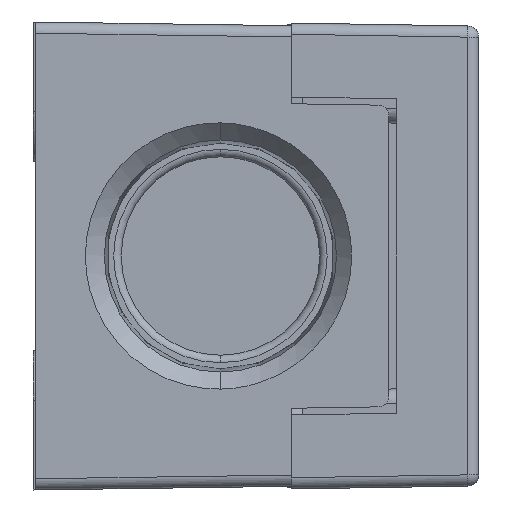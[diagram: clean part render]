
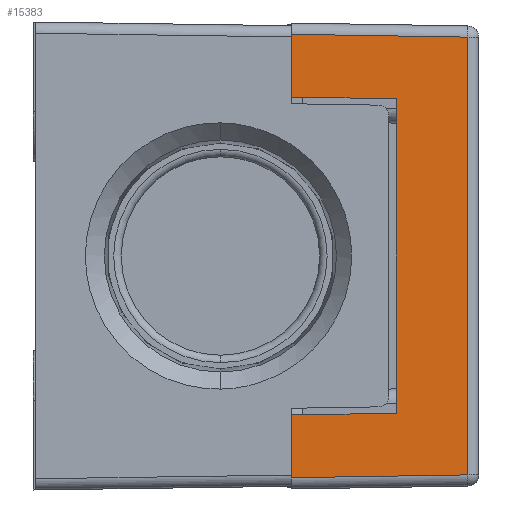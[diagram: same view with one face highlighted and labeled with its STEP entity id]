
A CAD part, front view. The second image highlights one B-rep face of the part: STEP entity #15383.
In plain terms, the highlighted planar face has unit normal (0.016, -1, 0).
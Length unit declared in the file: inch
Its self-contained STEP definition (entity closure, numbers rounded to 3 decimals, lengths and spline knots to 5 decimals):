
#536=DIRECTION('',(0.,0.,1.));
#537=VECTOR('',#536,0.2515);
#538=CARTESIAN_POINT('',(0.19,-3.68572,-0.88823));
#539=LINE('',#538,#537);
#2592=DIRECTION('',(0.,0.,1.));
#2593=VECTOR('',#2592,1.75386);
#2594=CARTESIAN_POINT('',(0.89572,-3.67442,
-0.87693));
#2595=LINE('',#2594,#2593);
#2601=DIRECTION('',(1.,0.016,0.016));
#2602=VECTOR('',#2601,0.7059);
#2603=CARTESIAN_POINT('',(0.19,-3.68572,-0.88823));
#2604=LINE('',#2603,#2602);
#2624=DIRECTION('',(0.,0.,-1.));
#2625=VECTOR('',#2624,1.26);
#2626=CARTESIAN_POINT('',(0.61,-3.679,0.63));
#2627=LINE('',#2626,#2625);
#2637=DIRECTION('',(-1.,-0.016,0.016));
#2638=VECTOR('',#2637,0.7059);
#2639=CARTESIAN_POINT('',(0.89572,-3.67442,
0.87693));
#2640=LINE('',#2639,#2638);
#2663=DIRECTION('',(0.,0.,1.));
#2664=VECTOR('',#2663,0.2515);
#2665=CARTESIAN_POINT('',(0.19,-3.68572,0.63672));
#2666=LINE('',#2665,#2664);
#2697=DIRECTION('',(1.,0.016,-0.016));
#2698=VECTOR('',#2697,0.42011);
#2699=CARTESIAN_POINT('',(0.19,-3.68572,0.63672));
#2700=LINE('',#2699,#2698);
#3230=DIRECTION('',(-1.,-0.016,-0.016));
#3231=VECTOR('',#3230,0.42011);
#3232=CARTESIAN_POINT('',(0.61,-3.679,-0.63));
#3233=LINE('',#3232,#3231);
#11427=CARTESIAN_POINT('',(0.61,-3.679,0.63));
#11428=CARTESIAN_POINT('',(0.61,-3.679,-0.63));
#11429=VERTEX_POINT('',#11427);
#11430=VERTEX_POINT('',#11428);
#11433=CARTESIAN_POINT('',(0.19,-3.68572,0.63672));
#11434=VERTEX_POINT('',#11433);
#11435=CARTESIAN_POINT('',(0.19,-3.68572,-0.63672));
#11436=VERTEX_POINT('',#11435);
#11494=CARTESIAN_POINT('',(0.89572,-3.67442,
0.87693));
#11495=CARTESIAN_POINT('',(0.19,-3.68572,0.88823));
#11496=VERTEX_POINT('',#11494);
#11497=VERTEX_POINT('',#11495);
#11498=CARTESIAN_POINT('',(0.89572,-3.67442,
-0.87693));
#11499=VERTEX_POINT('',#11498);
#11500=CARTESIAN_POINT('',(0.19,-3.68572,-0.88823));
#11501=VERTEX_POINT('',#11500);
#15363=CARTESIAN_POINT('',(0.235,-3.685,0.98678));
#15364=DIRECTION('',(0.016,-1.,0.));
#15365=DIRECTION('',(0.,0.,1.));
#15366=AXIS2_PLACEMENT_3D('',#15363,#15364,#15365);
#15367=PLANE('',#15366);
#15369=ORIENTED_EDGE('',*,*,#15368,.F.);
#15370=ORIENTED_EDGE('',*,*,#15332,.F.);
#15371=ORIENTED_EDGE('',*,*,#15355,.F.);
#15372=ORIENTED_EDGE('',*,*,#13019,.T.);
#15374=ORIENTED_EDGE('',*,*,#15373,.F.);
#15376=ORIENTED_EDGE('',*,*,#15375,.F.);
#15378=ORIENTED_EDGE('',*,*,#15377,.F.);
#15380=ORIENTED_EDGE('',*,*,#15379,.T.);
#15381=EDGE_LOOP('',(#15369,#15370,#15371,#15372,#15374,#15376,#15378,#15380));
#15382=FACE_OUTER_BOUND('',#15381,.F.);
#15383=ADVANCED_FACE('',(#15382),#15367,.T.);
#13019=EDGE_CURVE('',#11501,#11436,#539,.T.);
#15332=EDGE_CURVE('',#11499,#11496,#2595,.T.);
#15355=EDGE_CURVE('',#11501,#11499,#2604,.T.);
#15368=EDGE_CURVE('',#11496,#11497,#2640,.T.);
#15373=EDGE_CURVE('',#11430,#11436,#3233,.T.);
#15375=EDGE_CURVE('',#11429,#11430,#2627,.T.);
#15377=EDGE_CURVE('',#11434,#11429,#2700,.T.);
#15379=EDGE_CURVE('',#11434,#11497,#2666,.T.);
